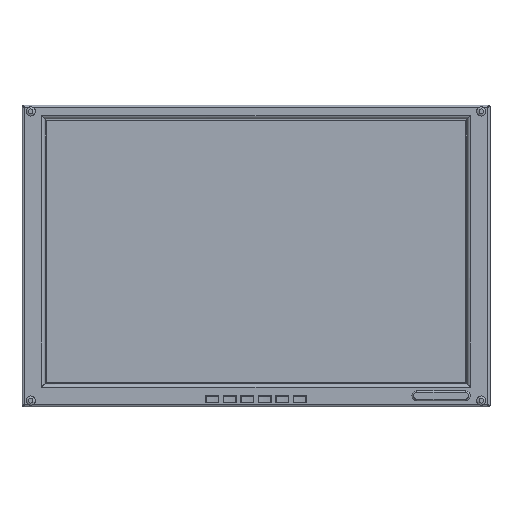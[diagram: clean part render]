
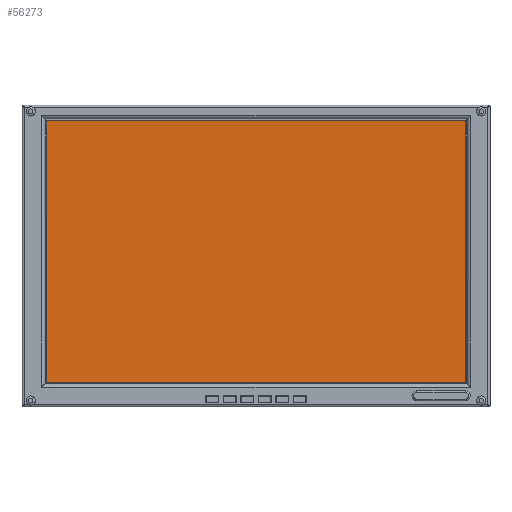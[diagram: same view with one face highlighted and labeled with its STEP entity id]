
A CAD part, front view. The second image highlights one B-rep face of the part: STEP entity #56273.
In plain terms, the highlighted planar face has unit normal (0, -1, 0).
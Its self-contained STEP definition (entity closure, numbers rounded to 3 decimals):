
#6774=PLANE('',#60084);
#8823=FACE_OUTER_BOUND('',#12167,.T.);
#12167=EDGE_LOOP('',(#42924,#42925,#42926,#42927));
#16473=LINE('',#85383,#21573);
#16474=LINE('',#85387,#21574);
#16478=LINE('',#85394,#21578);
#16479=LINE('',#85395,#21579);
#21573=VECTOR('',#68954,433.44);
#21574=VECTOR('',#68957,433.44);
#21578=VECTOR('',#68963,270.9);
#21579=VECTOR('',#68964,270.9);
#27066=VERTEX_POINT('',#85377);
#27068=VERTEX_POINT('',#85381);
#27069=VERTEX_POINT('',#85385);
#27070=VERTEX_POINT('',#85386);
#32913=EDGE_CURVE('',#27066,#27068,#16473,.T.);
#32914=EDGE_CURVE('',#27069,#27070,#16474,.T.);
#32918=EDGE_CURVE('',#27068,#27070,#16478,.T.);
#32919=EDGE_CURVE('',#27066,#27069,#16479,.T.);
#42924=ORIENTED_EDGE('',*,*,#32913,.T.);
#42925=ORIENTED_EDGE('',*,*,#32918,.T.);
#42926=ORIENTED_EDGE('',*,*,#32914,.F.);
#42927=ORIENTED_EDGE('',*,*,#32919,.F.);
#56273=ADVANCED_FACE('',(#8823),#6774,.T.);
#60084=AXIS2_PLACEMENT_3D('',#85393,#68961,#68962);
#68954=DIRECTION('',(1.,0.,0.));
#68957=DIRECTION('',(1.,0.,0.));
#68961=DIRECTION('center_axis',(0.,-1.,0.));
#68962=DIRECTION('ref_axis',(0.,0.,-1.));
#68963=DIRECTION('',(0.,0.,1.));
#68964=DIRECTION('',(0.,0.,1.));
#85377=CARTESIAN_POINT('',(-216.72,-292.8,-730.2));
#85381=CARTESIAN_POINT('',(216.72,-292.8,-730.2));
#85383=CARTESIAN_POINT('',(216.72,-292.8,-730.2));
#85385=CARTESIAN_POINT('',(-216.72,-292.8,-459.3));
#85386=CARTESIAN_POINT('',(216.72,-292.8,-459.3));
#85387=CARTESIAN_POINT('',(216.72,-292.8,-459.3));
#85393=CARTESIAN_POINT('Origin',(-216.72,-292.8,-730.2));
#85394=CARTESIAN_POINT('',(216.72,-292.8,-459.3));
#85395=CARTESIAN_POINT('',(-216.72,-292.8,-459.3));
